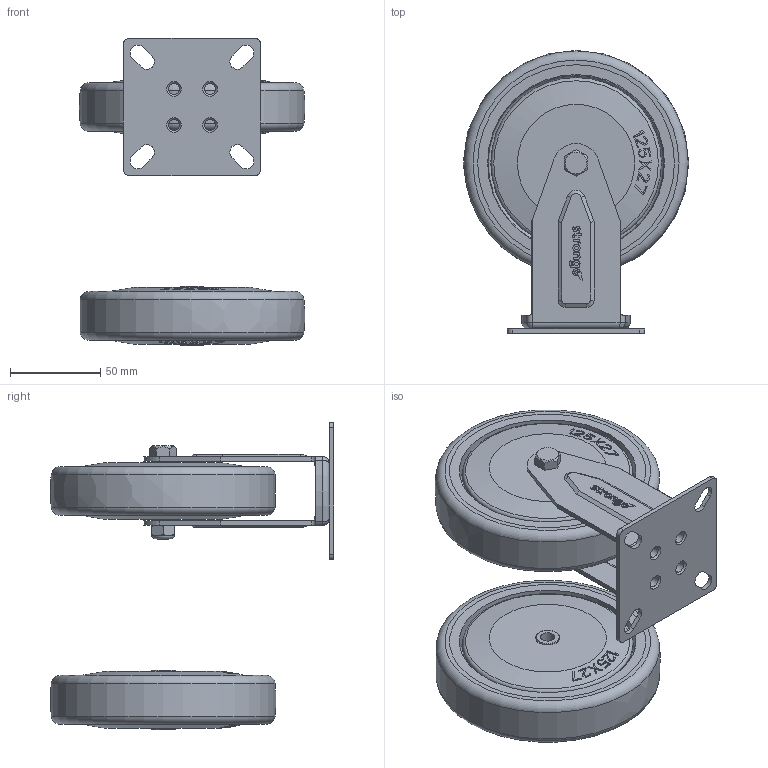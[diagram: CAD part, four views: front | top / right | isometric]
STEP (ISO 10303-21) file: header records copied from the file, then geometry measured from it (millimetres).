
FILE_DESCRIPTION(('STEP AP203'),'1');
FILE_NAME('E:/Pomoc/Strongo/343a39J125rZPE.stp',' ',(' '),(' '),'XStep 1.0',' ',' ');
FILE_SCHEMA(('CONFIG_CONTROL_DESIGN'));
Length unit declared in the file: metre
Products named in the file (3): Assembly126; Next assembly relationship; Assembly68
Bounding box: 124.95 x 157 x 170.28 mm (x, y, z)
Volume: 459253.2 mm3; surface area: 296575.3 mm2
Topology: 44 solids, 44 shells, 3257 faces, 9111 edges, 6056 vertices
Faces by surface type: plane 2337, cylinder 261, cone 253, torus 203, bspline 177, sphere 26
Full cylindrical faces by diameter (mm): 2.076 x4, 4.014 x2, 6.2 x8, 7 x1, 8 x19, 8.2 x8, 8.4 x12, 12 x8, 12.5 x1, 13.2 x4, 17.4 x4, 18 x4, 26 x4, 29 x4, 32 x4, 92.5 x4, 94.5 x4, 109 x4
Entity records: 56040 total; most frequent: CARTESIAN_POINT 19160, ORIENTED_EDGE 8052, DIRECTION 6697, EDGE_CURVE 4026, LINE 2877, VECTOR 2877, VERTEX_POINT 2712, AXIS2_PLACEMENT_3D 1910
